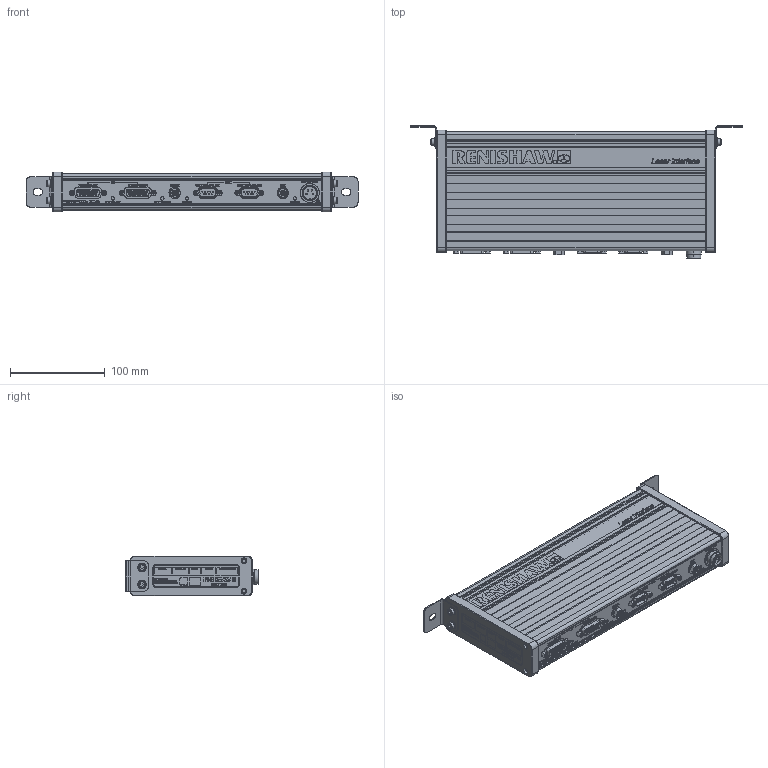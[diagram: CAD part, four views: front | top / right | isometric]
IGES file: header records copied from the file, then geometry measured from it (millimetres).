
Global section: file name: Y:\_LCPD Drawings\13.1 Lightweight Models\9926\LA-9926-0200  RLI20P LASER INTERFACE\LA_9926_0200.igs; native system: NX V7.5; preprocessor: SIEMENS PLM Software NX 7.5; date: 20141211.092052; units: millimetre
Bounding box: 350 x 139.5 x 42 mm (x, y, z)
Surface area: 144666.1 mm2 (no closed solid volume)
Topology: 0 solids, 0 shells, 3586 faces, 25261 edges, 25149 vertices
Faces by surface type: bspline 3586
